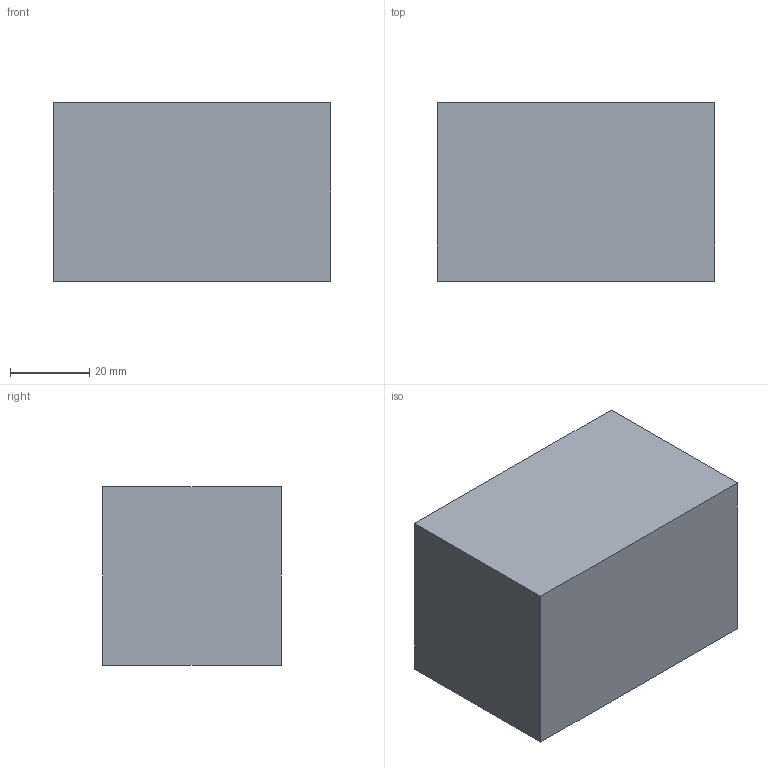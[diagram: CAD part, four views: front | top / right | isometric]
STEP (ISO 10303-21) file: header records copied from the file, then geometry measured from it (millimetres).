
FILE_DESCRIPTION(('Open CASCADE Model'),'2;1');
FILE_NAME('Open CASCADE Shape Model','2026-10-21T10:33:18',('Author'),( 'Open CASCADE'),'Open CASCADE STEP processor 7.9','Open CASCADE 7.9' ,'Unknown');
FILE_SCHEMA(('AUTOMOTIVE_DESIGN { 1 0 10303 214 1 1 1 1 }'));
Length unit declared in the file: millimetre
Products named in the file (1): Open CASCADE STEP translator 7.9 22
Bounding box: 70 x 45 x 45 mm (x, y, z)
Volume: 141750 mm3; surface area: 16650 mm2
Topology: 1 solids, 1 shells, 6 faces, 12 edges, 8 vertices
Faces by surface type: plane 6
Entity records: 322 total; most frequent: CARTESIAN_POINT 51, DIRECTION 50, LINE 36, VECTOR 36, ORIENTED_EDGE 24, PCURVE 24, DEFINITIONAL_REPRESENTATION 24, EDGE_CURVE 12
